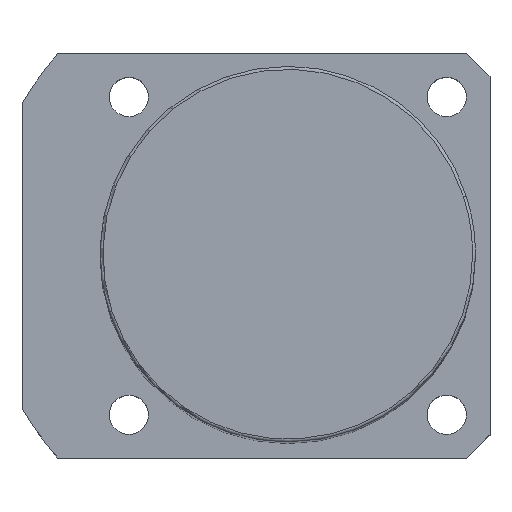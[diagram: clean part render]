
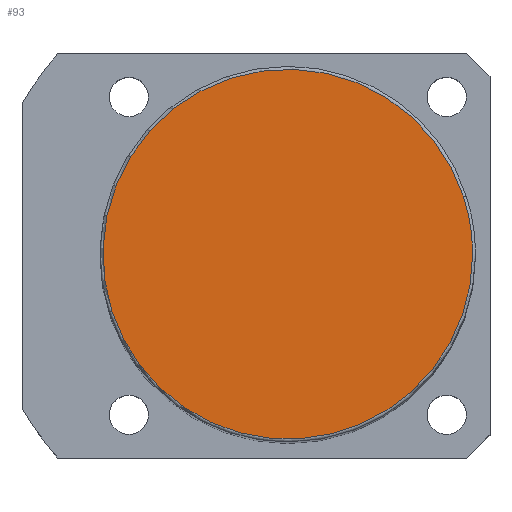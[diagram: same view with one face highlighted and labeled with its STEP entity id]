
A CAD part, top view. The second image highlights one B-rep face of the part: STEP entity #93.
In plain terms, the highlighted planar face has unit normal (0, 0, 1).
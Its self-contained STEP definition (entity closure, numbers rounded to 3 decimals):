
#16=CARTESIAN_POINT('',(30.434,9.889,181.0));
#17=VERTEX_POINT('',#16);
#45=CARTESIAN_POINT('',(-30.434,-9.889,181.0));
#46=VERTEX_POINT('',#45);
#54=CARTESIAN_POINT('',(0.0,0.0,181.0));
#55=DIRECTION('',(0.0,0.0,1.0));
#56=DIRECTION('',(1.0,0.0,0.0));
#57=AXIS2_PLACEMENT_3D('',#54,#55,#56);
#58=CIRCLE('',#57,32.0);
#59=EDGE_CURVE('no 890',#17,#46,#58,.T.);
#69=CARTESIAN_POINT('',(32.0,0.0,181.0));
#70=VERTEX_POINT('',#69);
#71=CARTESIAN_POINT('',(0.0,0.0,181.0));
#72=DIRECTION('',(0.0,0.0,1.0));
#73=DIRECTION('',(1.0,0.0,0.0));
#74=AXIS2_PLACEMENT_3D('',#71,#72,#73);
#75=CIRCLE('',#74,32.0);
#76=EDGE_CURVE('no 899',#70,#17,#75,.T.);
#77=ORIENTED_EDGE('',*,*,#76,.T.);
#78=ORIENTED_EDGE('',*,*,#59,.T.);
#79=CARTESIAN_POINT('',(0.0,0.0,181.0));
#80=DIRECTION('',(0.0,0.0,1.0));
#81=DIRECTION('',(1.0,0.0,0.0));
#82=AXIS2_PLACEMENT_3D('',#79,#80,#81);
#83=CIRCLE('',#82,32.0);
#84=EDGE_CURVE('no 905',#46,#70,#83,.T.);
#85=ORIENTED_EDGE('',*,*,#84,.T.);
#86=EDGE_LOOP('',(#77,#78,#85));
#87=FACE_OUTER_BOUND('',#86,.T.);
#88=CARTESIAN_POINT('',(0.0,0.0,181.0));
#89=DIRECTION('',(0.0,0.0,1.0));
#90=DIRECTION('',(1.0,0.0,0.0));
#91=AXIS2_PLACEMENT_3D('',#88,#89,#90);
#92=PLANE('',#91);
#93=ADVANCED_FACE('no 892',(#87),#92,.T.);
